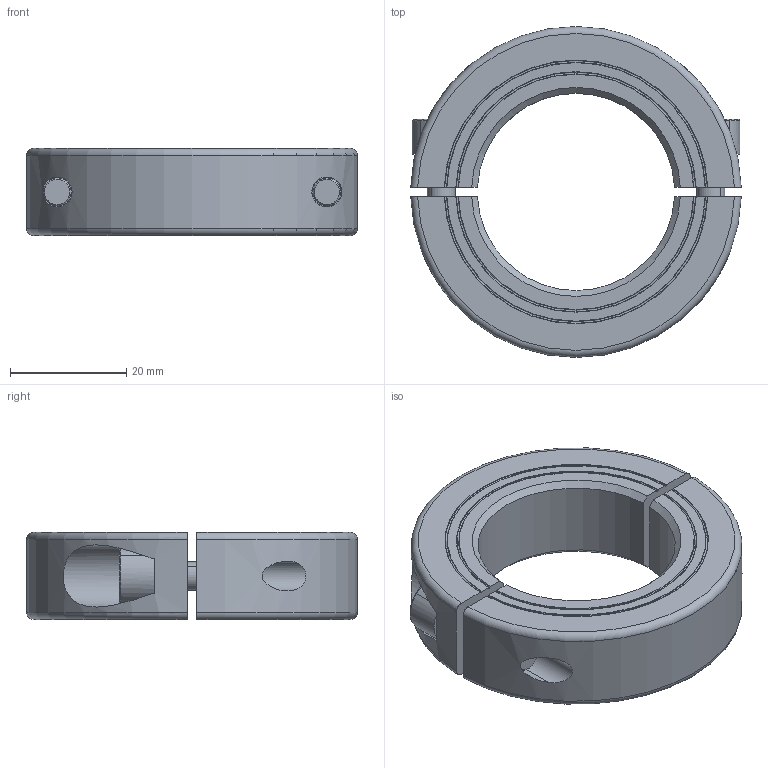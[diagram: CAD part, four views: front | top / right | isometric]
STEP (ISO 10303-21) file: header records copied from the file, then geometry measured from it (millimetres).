
FILE_DESCRIPTION((''),'2;1');
FILE_NAME('MSP-34-X','2016-09-09T',('SYSTEM'),(''),'PRO/ENGINEER BY PARAMETRIC TECHNOLOGY CORPORATION, 2015110','PRO/ENGINEER BY PARAMETRIC TECHNOLOGY CORPORATION, 2015110','');
FILE_SCHEMA(('AUTOMOTIVE_DESIGN { 1 0 10303 214 1 1 1 1 }'));
Length unit declared in the file: inch
Products named in the file (1): MSP-34-X
Bounding box: 56.98 x 57 x 15 mm (x, y, z)
Volume: 22678.3 mm3; surface area: 9899.2 mm2
Topology: 2 solids, 2 shells, 90 faces, 222 edges, 144 vertices
Faces by surface type: plane 36, cylinder 26, cone 20, torus 8
Entity records: 3604 total; most frequent: CARTESIAN_POINT 795, ORIENTED_EDGE 444, DIRECTION 430, EDGE_CURVE 222, AXIS2_PLACEMENT_3D 168, VERTEX_POINT 144, EDGE_LOOP 102, VECTOR 94
